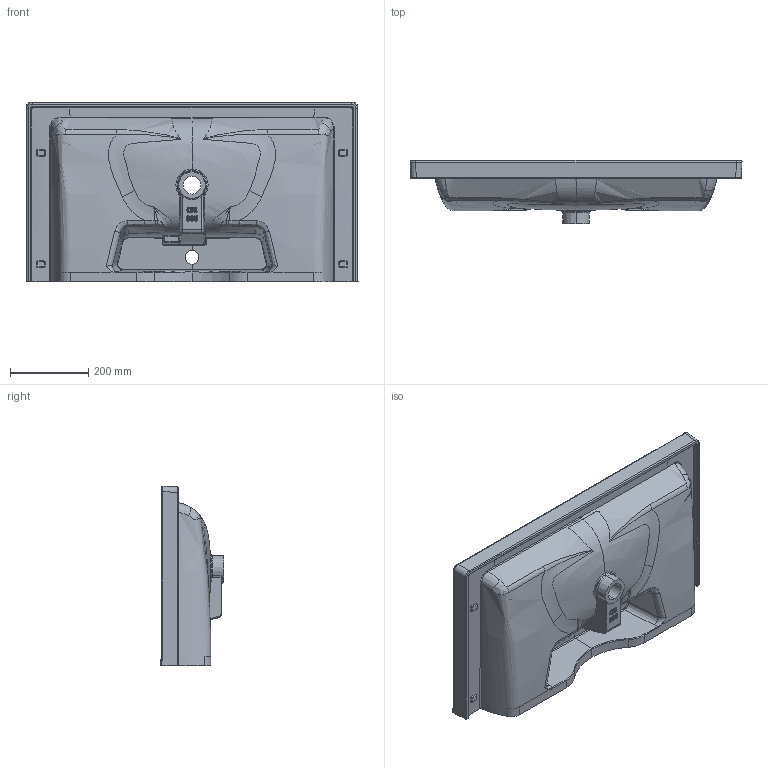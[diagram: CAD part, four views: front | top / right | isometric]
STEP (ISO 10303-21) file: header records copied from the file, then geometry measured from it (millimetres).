
FILE_DESCRIPTION (( 'STEP AP203' ), '1' );
FILE_NAME ('OB085.STEP', '2023-01-17T07:33:48', ( '' ), ( '' ), 'SwSTEP 2.0', 'SolidWorks 2021', '' );
FILE_SCHEMA (( 'CONFIG_CONTROL_DESIGN' ));
Products named in the file (1): OB085
Bounding box: 850.14 x 163.5 x 460.06 mm (x, y, z)
Volume: 19576336.5 mm3; surface area: 1214118.3 mm2
Topology: 2 solids, 4 shells, 697 faces, 1721 edges, 1000 vertices
Faces by surface type: bspline 503, cylinder 97, plane 64, sphere 22, cone 6, torus 5
Entity records: 100587 total; most frequent: CARTESIAN_POINT 88372, ORIENTED_EDGE 3350, EDGE_CURVE 1675, DIRECTION 1269, B_SPLINE_CURVE_WITH_KNOTS 1063, VERTEX_POINT 1000, EDGE_LOOP 717, ADVANCED_FACE 697
